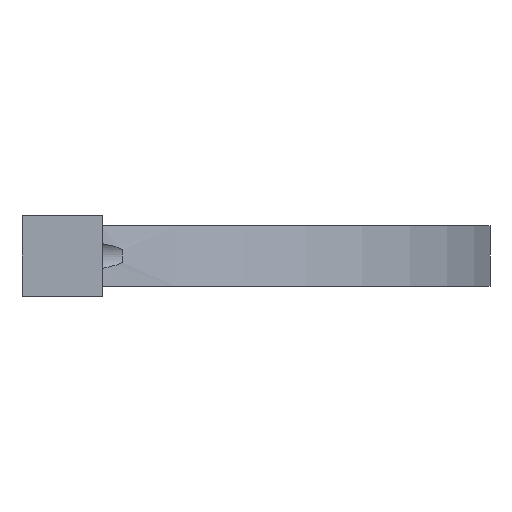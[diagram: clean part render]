
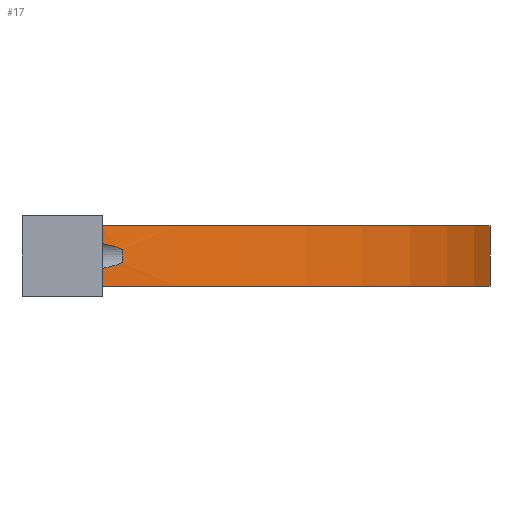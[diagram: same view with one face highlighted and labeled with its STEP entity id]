
A CAD part, left-side view. The second image highlights one B-rep face of the part: STEP entity #17.
In plain terms, the highlighted cylindrical face has radius 47 mm (diameter 94 mm), a partial arc.
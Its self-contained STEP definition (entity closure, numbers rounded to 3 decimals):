
#17 = ADVANCED_FACE('',(#18),#104,.T.);
#18 = FACE_BOUND('',#19,.T.);
#19 = EDGE_LOOP('',(#20,#30,#39,#47,#56,#64,#81,#89));
#20 = ORIENTED_EDGE('',*,*,#21,.F.);
#21 = EDGE_CURVE('',#22,#24,#26,.T.);
#22 = VERTEX_POINT('',#23);
#23 = CARTESIAN_POINT('',(-11.314,-116.,250.));
#24 = VERTEX_POINT('',#25);
#25 = CARTESIAN_POINT('',(-11.314,-116.,251.782));
#26 = LINE('',#27,#28);
#27 = CARTESIAN_POINT('',(-11.314,-116.,250.));
#28 = VECTOR('',#29,1.);
#29 = DIRECTION('',(0.,0.,1.));
#30 = ORIENTED_EDGE('',*,*,#31,.T.);
#31 = EDGE_CURVE('',#22,#32,#34,.T.);
#32 = VERTEX_POINT('',#33);
#33 = CARTESIAN_POINT('',(28.8,-154.589,250.));
#34 = CIRCLE('',#35,47.);
#35 = AXIS2_PLACEMENT_3D('',#36,#37,#38);
#36 = CARTESIAN_POINT('',(35.,-108.,250.));
#37 = DIRECTION('',(0.,0.,1.));
#38 = DIRECTION('',(1.,0.,0.));
#39 = ORIENTED_EDGE('',*,*,#40,.T.);
#40 = EDGE_CURVE('',#32,#41,#43,.T.);
#41 = VERTEX_POINT('',#42);
#42 = CARTESIAN_POINT('',(28.8,-154.589,256.));
#43 = LINE('',#44,#45);
#44 = CARTESIAN_POINT('',(28.8,-154.589,250.));
#45 = VECTOR('',#46,1.);
#46 = DIRECTION('',(0.,0.,1.));
#47 = ORIENTED_EDGE('',*,*,#48,.F.);
#48 = EDGE_CURVE('',#49,#41,#51,.T.);
#49 = VERTEX_POINT('',#50);
#50 = CARTESIAN_POINT('',(-11.314,-116.,256.));
#51 = CIRCLE('',#52,47.);
#52 = AXIS2_PLACEMENT_3D('',#53,#54,#55);
#53 = CARTESIAN_POINT('',(35.,-108.,256.));
#54 = DIRECTION('',(0.,0.,1.));
#55 = DIRECTION('',(1.,0.,0.));
#56 = ORIENTED_EDGE('',*,*,#57,.F.);
#57 = EDGE_CURVE('',#58,#49,#60,.T.);
#58 = VERTEX_POINT('',#59);
#59 = CARTESIAN_POINT('',(-11.314,-116.,254.218));
#60 = LINE('',#61,#62);
#61 = CARTESIAN_POINT('',(-11.314,-116.,250.));
#62 = VECTOR('',#63,1.);
#63 = DIRECTION('',(0.,0.,1.));
#64 = ORIENTED_EDGE('',*,*,#65,.T.);
#65 = EDGE_CURVE('',#58,#66,#68,.T.);
#66 = VERTEX_POINT('',#67);
#67 = CARTESIAN_POINT('',(-10.924,-118.,253.637));
#68 = B_SPLINE_CURVE_WITH_KNOTS('',6,(#69,#70,#71,#72,#73,#74,#75,#76,
    #77,#78,#79,#80),.UNSPECIFIED.,.F.,.F.,(7,5,7),(0.,0.766,1.
    ),.UNSPECIFIED.);
#69 = CARTESIAN_POINT('',(-11.314,-116.,254.218));
#70 = CARTESIAN_POINT('',(-11.268,-116.268,254.173
    ));
#71 = CARTESIAN_POINT('',(-11.221,-116.53,254.123
    ));
#72 = CARTESIAN_POINT('',(-11.172,-116.79,254.066
    ));
#73 = CARTESIAN_POINT('',(-11.121,-117.053,
    254.001));
#74 = CARTESIAN_POINT('',(-11.069,-117.313,
    253.924));
#75 = CARTESIAN_POINT('',(-11.002,-117.636,253.804)
  );
#76 = CARTESIAN_POINT('',(-10.986,-117.711,253.774)
  );
#77 = CARTESIAN_POINT('',(-10.97,-117.785,
    253.743));
#78 = CARTESIAN_POINT('',(-10.955,-117.858,
    253.71));
#79 = CARTESIAN_POINT('',(-10.939,-117.93,253.675
    ));
#80 = CARTESIAN_POINT('',(-10.924,-118.,253.637)
  );
#81 = ORIENTED_EDGE('',*,*,#82,.F.);
#82 = EDGE_CURVE('',#83,#66,#85,.T.);
#83 = VERTEX_POINT('',#84);
#84 = CARTESIAN_POINT('',(-10.924,-118.,252.363));
#85 = LINE('',#86,#87);
#86 = CARTESIAN_POINT('',(-10.924,-118.,250.));
#87 = VECTOR('',#88,1.);
#88 = DIRECTION('',(0.,0.,1.));
#89 = ORIENTED_EDGE('',*,*,#90,.T.);
#90 = EDGE_CURVE('',#83,#24,#91,.T.);
#91 = B_SPLINE_CURVE_WITH_KNOTS('',6,(#92,#93,#94,#95,#96,#97,#98,#99,
    #100,#101,#102,#103),.UNSPECIFIED.,.F.,.F.,(7,5,7),(0.,
    0.505,1.),.UNSPECIFIED.);
#92 = CARTESIAN_POINT('',(-10.924,-118.,252.363)
  );
#93 = CARTESIAN_POINT('',(-10.957,-117.849,252.282
    ));
#94 = CARTESIAN_POINT('',(-10.991,-117.687,
    252.211));
#95 = CARTESIAN_POINT('',(-11.026,-117.523,
    252.149));
#96 = CARTESIAN_POINT('',(-11.06,-117.358,
    252.094));
#97 = CARTESIAN_POINT('',(-11.093,-117.192,
    252.045));
#98 = CARTESIAN_POINT('',(-11.159,-116.853,
    251.954));
#99 = CARTESIAN_POINT('',(-11.191,-116.684,
    251.913));
#100 = CARTESIAN_POINT('',(-11.223,-116.514,
    251.876));
#101 = CARTESIAN_POINT('',(-11.254,-116.343,
    251.842));
#102 = CARTESIAN_POINT('',(-11.284,-116.172,
    251.811));
#103 = CARTESIAN_POINT('',(-11.314,-116.,251.782));
#104 = CYLINDRICAL_SURFACE('',#105,47.);
#105 = AXIS2_PLACEMENT_3D('',#106,#107,#108);
#106 = CARTESIAN_POINT('',(35.,-108.,250.));
#107 = DIRECTION('',(0.,0.,1.));
#108 = DIRECTION('',(1.,0.,0.));
